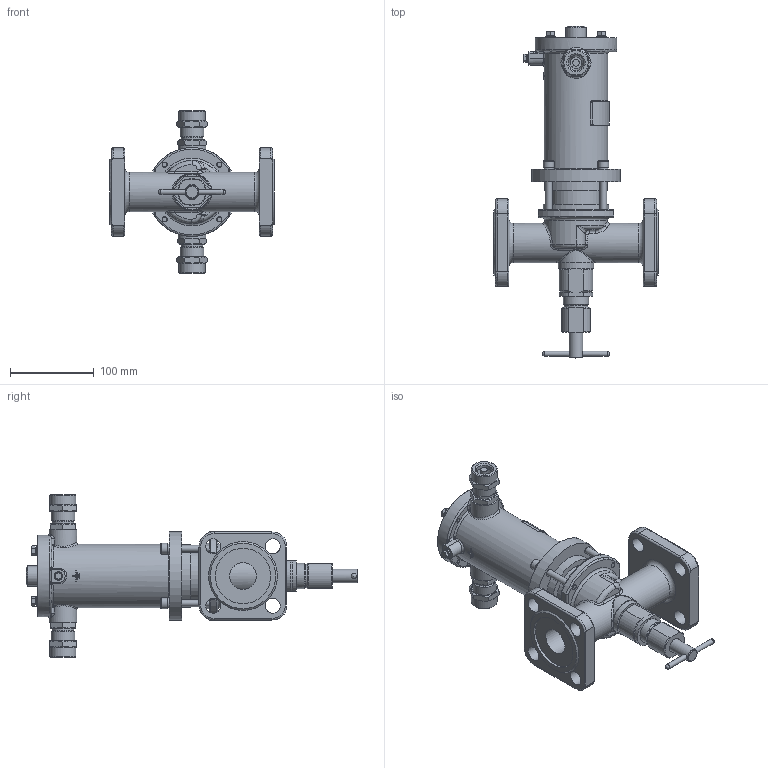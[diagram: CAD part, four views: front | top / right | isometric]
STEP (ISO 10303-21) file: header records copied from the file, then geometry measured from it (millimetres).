
FILE_DESCRIPTION(('STEP AP203'), '1');
FILE_NAME('ÑÅÍÑ-ÏÐ DN32PN25-ÑÂ.stp', '2018-10-09T07:55:14', ('Îðëîâ Å.Â.'), ('ÎÎÎ ÍÏÏ Ñåíñîð'), 'ASCON STEP Converter 1.3', 'Kompas 3D', '');
FILE_SCHEMA(('CONFIG_CONTROL_DESIGN','SUPPORT_RESOURCE_SCHEMA'));
Length unit declared in the file: millimetre
Products named in the file (1): 15
Bounding box: 196 x 395.5 x 194 mm (x, y, z)
Volume: 1192475.7 mm3; surface area: 334761.1 mm2
Topology: 3 solids, 19 shells, 1986 faces, 5248 edges, 3401 vertices
Faces by surface type: cylinder 1013, plane 724, cone 129, torus 52, bspline 50, extrusion 16, sphere 2
Full cylindrical faces by diameter (mm): 3.5 x2, 4.134 x1, 4.917 x4, 5 x1, 6 x13, 6.2 x1, 6.3 x4, 6.5 x4, 8 x8, 8.2 x1, 9 x4, 10 x1, 11 x1, 12 x4, 13 x6, 16 x3, 17 x2, 18 x9, 18.632 x2, 19.9 x1, 20 x2, 21 x1, 22 x2, 22.376 x2, 23 x1, 23.5 x2, 24 x3, 24.5 x2, 26 x4, 26.376 x2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
Entity records: 76203 total; most frequent: CARTESIAN_POINT 26005, DIRECTION 10866, ORIENTED_EDGE 10422, EDGE_CURVE 5211, AXIS2_PLACEMENT_3D 4179, VERTEX_POINT 3393, VECTOR 2508, LINE 2492
